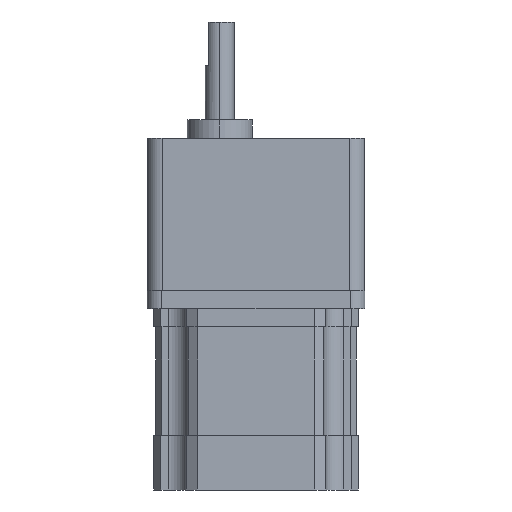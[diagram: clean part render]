
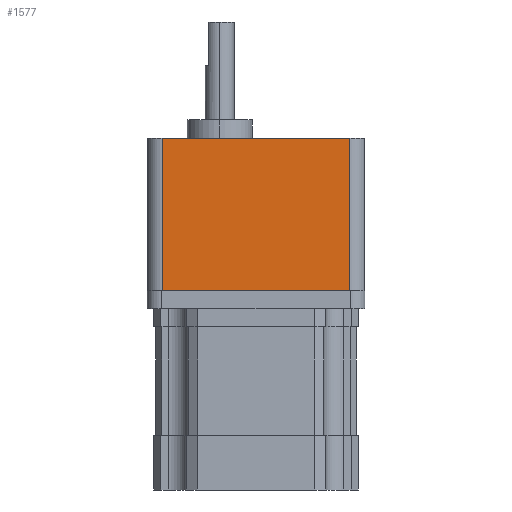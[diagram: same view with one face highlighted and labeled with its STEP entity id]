
A CAD part, left-side view. The second image highlights one B-rep face of the part: STEP entity #1577.
In plain terms, the highlighted planar face has unit normal (-1, 0, 0).
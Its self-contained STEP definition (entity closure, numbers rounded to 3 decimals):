
#12 = DIRECTION ( 'NONE',  ( 0., 0., -1. ) ) ;
#43 = CARTESIAN_POINT ( 'NONE',  ( -29.9, 25.9, 42. ) ) ;
#230 = CARTESIAN_POINT ( 'NONE',  ( -29.9, -25.9, 42. ) ) ;
#244 = CARTESIAN_POINT ( 'NONE',  ( -29.9, 25.9, 42. ) ) ;
#517 = VERTEX_POINT ( 'NONE', #1482 ) ;
#960 = EDGE_CURVE ( 'NONE', #2173, #3097, #4013, .T. ) ;
#998 = FACE_OUTER_BOUND ( 'NONE', #2419, .T. ) ;
#1001 = DIRECTION ( 'NONE',  ( 0., -1., 0. ) ) ;
#1003 = DIRECTION ( 'NONE',  ( 0., 0., -1. ) ) ;
#1006 = DIRECTION ( 'NONE',  ( 1., 0., 0. ) ) ;
#1009 = CARTESIAN_POINT ( 'NONE',  ( -29.9, -25.9, 42. ) ) ;
#1015 = CARTESIAN_POINT ( 'NONE',  ( -29.9, -25.9, 0. ) ) ;
#1052 = PLANE ( 'NONE',  #2157 ) ;
#1482 = CARTESIAN_POINT ( 'NONE',  ( -29.9, 25.9, 0. ) ) ;
#1500 = CARTESIAN_POINT ( 'NONE',  ( -29.9, -25.9, 0. ) ) ;
#1508 = VECTOR ( 'NONE', #2255, 1000. ) ;
#1577 = ADVANCED_FACE ( 'NONE', ( #998 ), #1052, .F. ) ;
#1610 = VECTOR ( 'NONE', #12, 1000. ) ;
#1748 = LINE ( 'NONE', #1015, #3429 ) ;
#2075 = VERTEX_POINT ( 'NONE', #244 ) ;
#2157 = AXIS2_PLACEMENT_3D ( 'NONE', #1009, #1006, #1003 ) ;
#2173 = VERTEX_POINT ( 'NONE', #230 ) ;
#2209 = LINE ( 'NONE', #4054, #3039 ) ;
#2224 = ORIENTED_EDGE ( 'NONE', *, *, #3789, .T. ) ;
#2237 = ORIENTED_EDGE ( 'NONE', *, *, #960, .F. ) ;
#2242 = ORIENTED_EDGE ( 'NONE', *, *, #3165, .F. ) ;
#2246 = ORIENTED_EDGE ( 'NONE', *, *, #2277, .T. ) ;
#2255 = DIRECTION ( 'NONE',  ( 0., 0., -1. ) ) ;
#2256 = CARTESIAN_POINT ( 'NONE',  ( -29.9, -25.9, 42. ) ) ;
#2277 = EDGE_CURVE ( 'NONE', #2075, #517, #2495, .T. ) ;
#2419 = EDGE_LOOP ( 'NONE', ( #2224, #2237, #2242, #2246 ) ) ;
#2495 = LINE ( 'NONE', #43, #1610 ) ;
#3039 = VECTOR ( 'NONE', #4045, 1000. ) ;
#3097 = VERTEX_POINT ( 'NONE', #1500 ) ;
#3165 = EDGE_CURVE ( 'NONE', #2075, #2173, #2209, .T. ) ;
#3429 = VECTOR ( 'NONE', #1001, 1000. ) ;
#3789 = EDGE_CURVE ( 'NONE', #517, #3097, #1748, .T. ) ;
#4013 = LINE ( 'NONE', #2256, #1508 ) ;
#4045 = DIRECTION ( 'NONE',  ( 0., -1., 0. ) ) ;
#4054 = CARTESIAN_POINT ( 'NONE',  ( -29.9, -25.9, 42. ) ) ;
